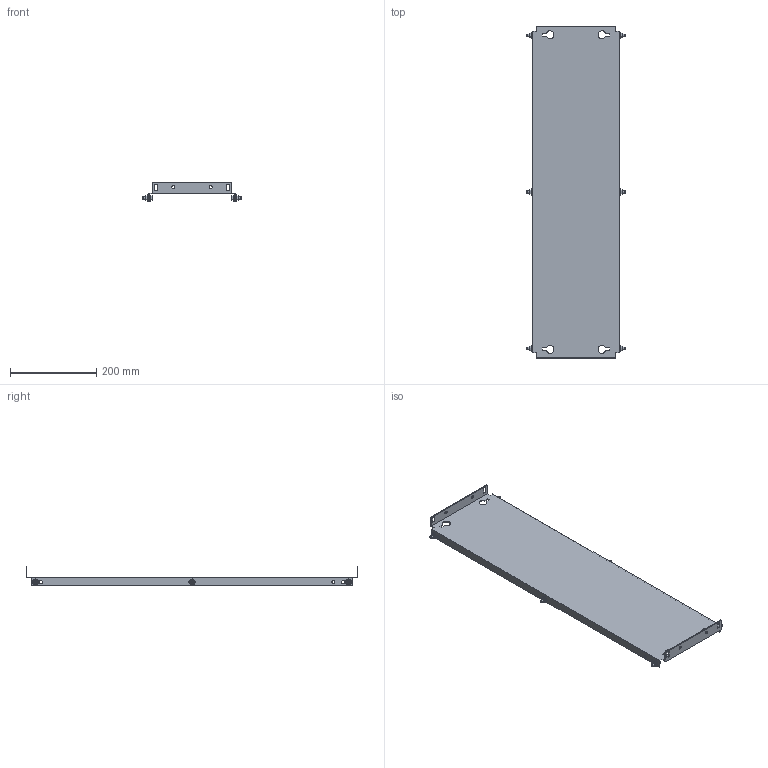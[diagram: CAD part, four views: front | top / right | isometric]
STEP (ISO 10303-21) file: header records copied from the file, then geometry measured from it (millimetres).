
FILE_DESCRIPTION(('Open CASCADE Model'),'2;1');
FILE_NAME('Open CASCADE Shape Model','2025-02-20T13:24:51',('Author'),( 'Open CASCADE'),'Open CASCADE STEP processor 7.8','Open CASCADE 7.8' ,'Unknown');
FILE_SCHEMA(('AUTOMOTIVE_DESIGN { 1 0 10303 214 1 1 1 1 }'));
Length unit declared in the file: millimetre
Products named in the file (4): Compound1; Solid1; Solid2; Solid3
Assembly tree (13 placements, depth 2):
  Compound1
    Solid1
    Solid2  x6
    Solid3  x6
Bounding box: 228 x 769 x 43 mm (x, y, z)
Volume: 380180.6 mm3; surface area: 384573.3 mm2
Topology: 13 solids, 13 shells, 422 faces, 1010 edges, 620 vertices
Faces by surface type: plane 192, cone 102, bspline 72, cylinder 38, torus 18
Full cylindrical faces by diameter (mm): 5 x6, 6 x12, 7 x16
Entity records: 5048 total; most frequent: CARTESIAN_POINT 1397, ORIENTED_EDGE 770, DIRECTION 664, EDGE_CURVE 385, VERTEX_POINT 250, AXIS2_PLACEMENT_3D 224, LINE 216, VECTOR 216
